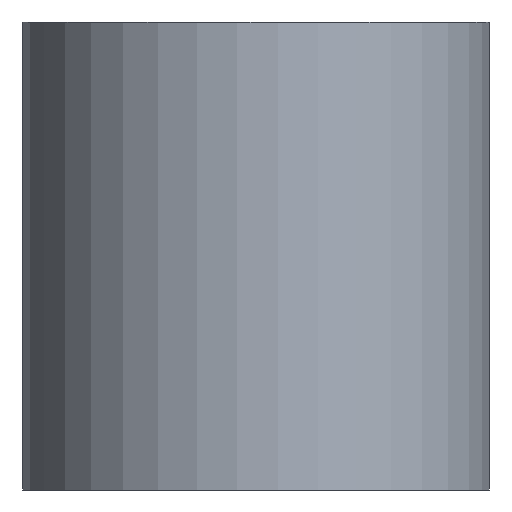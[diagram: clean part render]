
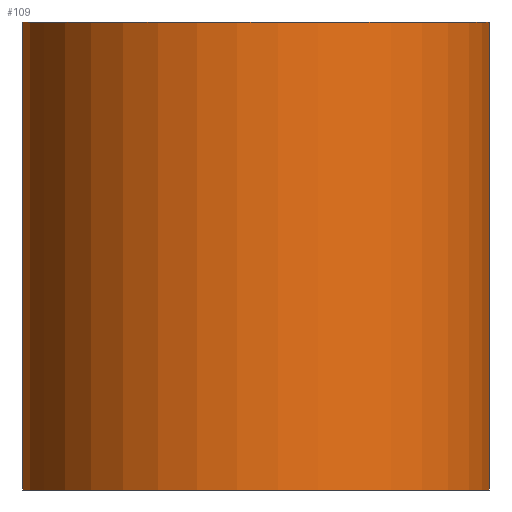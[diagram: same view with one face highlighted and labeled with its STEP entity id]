
A CAD part, front view. The second image highlights one B-rep face of the part: STEP entity #109.
In plain terms, the highlighted cylindrical face has radius 4.763 mm (diameter 9.525 mm), a partial arc.
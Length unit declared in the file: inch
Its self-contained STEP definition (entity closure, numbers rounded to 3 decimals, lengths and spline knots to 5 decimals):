
#13 = DIRECTION ( 'NONE',  ( 0., 0., -1. ) ) ;
#16 = EDGE_CURVE ( 'NONE', #174, #338, #314, .T. ) ;
#21 = CARTESIAN_POINT ( 'NONE',  ( -0.1349, -0.04668, -0.375 ) ) ;
#28 = AXIS2_PLACEMENT_3D ( 'NONE', #170, #13, #194 ) ;
#34 = FACE_OUTER_BOUND ( 'NONE', #297, .T. ) ;
#61 = CARTESIAN_POINT ( 'NONE',  ( -0.1349, -0.04668, 0. ) ) ;
#70 = AXIS2_PLACEMENT_3D ( 'NONE', #307, #246, #176 ) ;
#91 = CARTESIAN_POINT ( 'NONE',  ( 0.0518, -0.02945, -0.375 ) ) ;
#105 = CYLINDRICAL_SURFACE ( 'NONE', #28, 0.1875 ) ;
#109 = ADVANCED_FACE ( 'NONE', ( #34 ), #105, .T. ) ;
#121 = CARTESIAN_POINT ( 'NONE',  ( 0.23851, -0.01221, -0.375 ) ) ;
#124 = VECTOR ( 'NONE', #219, 39.37008 ) ;
#140 = EDGE_CURVE ( 'NONE', #340, #206, #264, .T. ) ;
#157 = ORIENTED_EDGE ( 'NONE', *, *, #140, .T. ) ;
#163 = ORIENTED_EDGE ( 'NONE', *, *, #189, .T. ) ;
#170 = CARTESIAN_POINT ( 'NONE',  ( 0.0518, -0.02945, 0. ) ) ;
#174 = VERTEX_POINT ( 'NONE', #324 ) ;
#176 = DIRECTION ( 'NONE',  ( 0.996, 0.092, 0. ) ) ;
#188 = CARTESIAN_POINT ( 'NONE',  ( 0.23851, -0.01221, 0. ) ) ;
#189 = EDGE_CURVE ( 'NONE', #206, #338, #249, .T. ) ;
#194 = DIRECTION ( 'NONE',  ( -0.996, -0.092, 0. ) ) ;
#195 = DIRECTION ( 'NONE',  ( 0., 0., 1. ) ) ;
#206 = VERTEX_POINT ( 'NONE', #21 ) ;
#219 = DIRECTION ( 'NONE',  ( 0., 0., -1. ) ) ;
#226 = CIRCLE ( 'NONE', #70, 0.1875 ) ;
#246 = DIRECTION ( 'NONE',  ( 0., 0., 1. ) ) ;
#249 = CIRCLE ( 'NONE', #283, 0.1875 ) ;
#264 = LINE ( 'NONE', #322, #124 ) ;
#270 = DIRECTION ( 'NONE',  ( 0.996, 0.092, 0. ) ) ;
#272 = ORIENTED_EDGE ( 'NONE', *, *, #335, .F. ) ;
#283 = AXIS2_PLACEMENT_3D ( 'NONE', #91, #195, #270 ) ;
#286 = ORIENTED_EDGE ( 'NONE', *, *, #16, .F. ) ;
#289 = DIRECTION ( 'NONE',  ( 0., 0., -1. ) ) ;
#297 = EDGE_LOOP ( 'NONE', ( #286, #272, #157, #163 ) ) ;
#307 = CARTESIAN_POINT ( 'NONE',  ( 0.0518, -0.02945, 0. ) ) ;
#312 = VECTOR ( 'NONE', #289, 39.37008 ) ;
#314 = LINE ( 'NONE', #188, #312 ) ;
#322 = CARTESIAN_POINT ( 'NONE',  ( -0.1349, -0.04668, 0. ) ) ;
#324 = CARTESIAN_POINT ( 'NONE',  ( 0.23851, -0.01221, 0. ) ) ;
#335 = EDGE_CURVE ( 'NONE', #340, #174, #226, .T. ) ;
#338 = VERTEX_POINT ( 'NONE', #121 ) ;
#340 = VERTEX_POINT ( 'NONE', #61 ) ;
